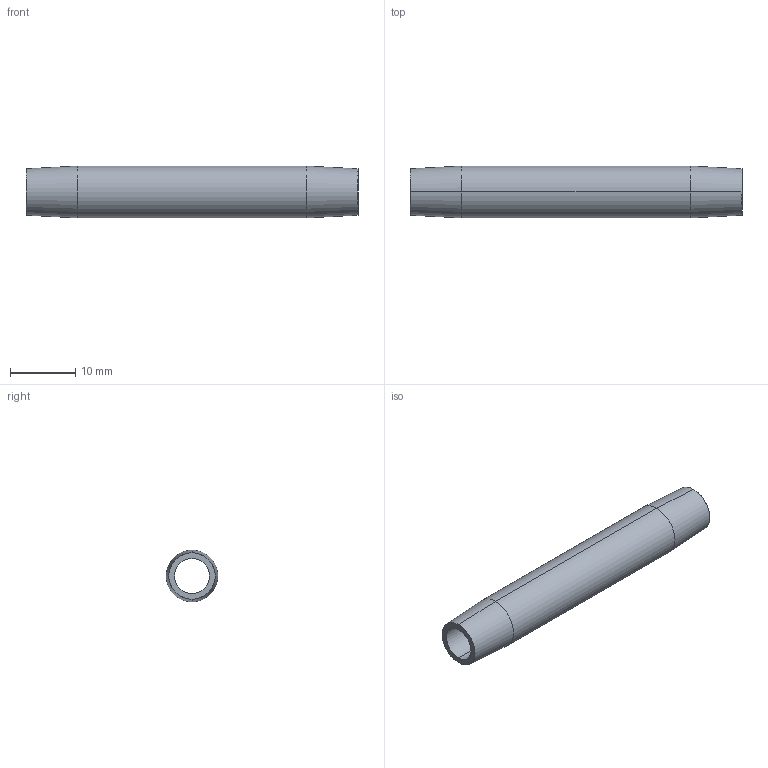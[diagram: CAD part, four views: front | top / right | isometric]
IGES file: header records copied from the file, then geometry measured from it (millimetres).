
Start section: SolidWorks IGES file using analytic representation for surfaces
Global section: file name: C:\Users\365admin\AppData\Local\Temp\InFlowXlateWorking\BPN06L2.igs; native system: SolidWorks 2018; preprocessor: SolidWorks 2018; author: 365admin; date: 200819.024738; units: inch
Bounding box: 50.8 x 7.94 x 7.94 mm (x, y, z)
Surface area: 2128.8 mm2 (no closed solid volume)
Topology: 0 solids, 0 shells, 10 faces, 160 edges, 160 vertices
Faces by surface type: revolution 8, bspline 2
